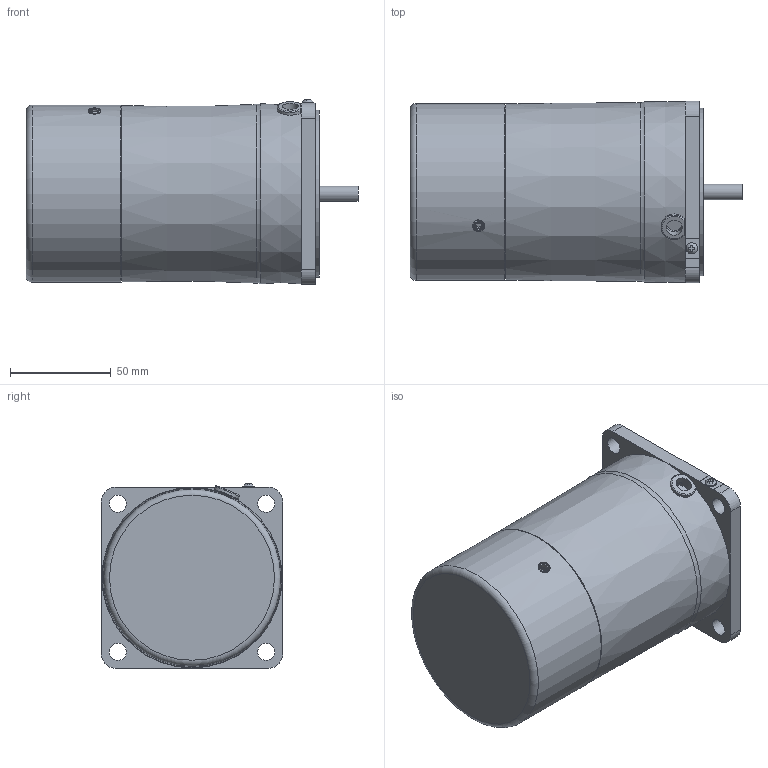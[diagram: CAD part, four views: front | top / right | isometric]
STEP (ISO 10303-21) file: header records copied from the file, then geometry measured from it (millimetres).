
FILE_DESCRIPTION(/* description */ (''),/* implementation_level */ '2;1');
FILE_NAME(/* name */ 'Y:\제품연구개발\3. 도면\3. 고객배포용\3D_홈페이지용\01-1 Standard AC SG Series\03 ELECTROMAGNETIC BRAKE MOTOR\SG9R(I)40_-E\SG9R(I)40G_-E.stp',/* time_stamp */ '2023-12-05T17:43:20+09:00',/* author */ ('shyi1037'),/* organization */ (''),/* preprocessor_version */ 'ST-DEVELOPER v18.1',/* originating_system */ 'Autodesk Inventor 2022',/* authorisation */ '');
FILE_SCHEMA (('AUTOMOTIVE_DESIGN { 1 0 10303 214 3 1 1 }'));
Length unit declared in the file: millimetre
Products named in the file (1): SG9R(I)40G_-E
Bounding box: 164.6 x 90 x 91.76 mm (x, y, z)
Volume: 881728.5 mm3; surface area: 60297.3 mm2
Topology: 1 solids, 2 shells, 104 faces, 250 edges, 166 vertices
Faces by surface type: plane 62, cylinder 33, torus 6, cone 2, bspline 1
Full cylindrical faces by diameter (mm): 3.1 x1, 4.6 x1, 5 x2, 5.6 x1, 6 x1, 7.62 x1, 8 x1, 8.5 x4, 10 x1, 40 x1, 83 x1, 86 x1, 87.8 x1
Entity records: 3345 total; most frequent: CARTESIAN_POINT 702, DIRECTION 525, ORIENTED_EDGE 500, EDGE_CURVE 250, AXIS2_PLACEMENT_3D 192, VERTEX_POINT 166, LINE 141, VECTOR 141
